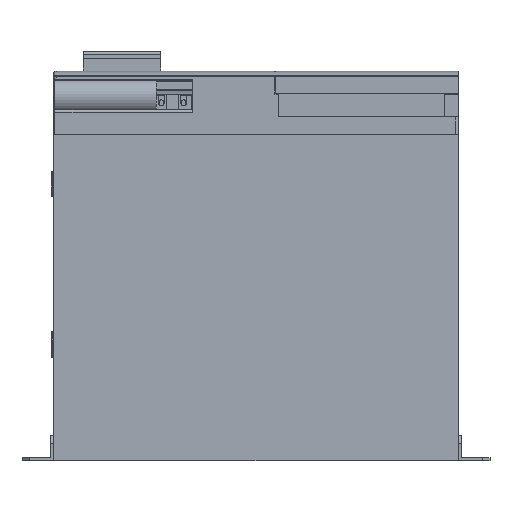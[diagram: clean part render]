
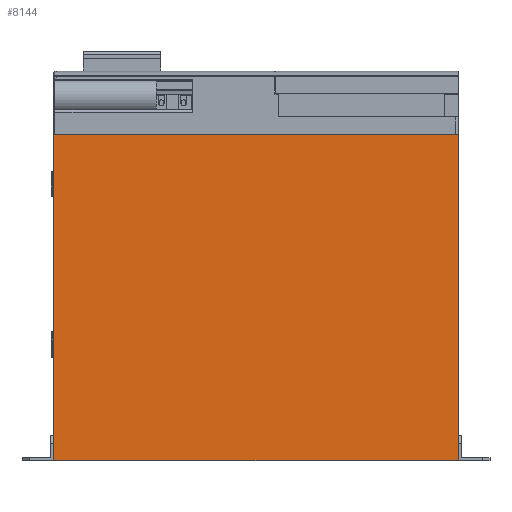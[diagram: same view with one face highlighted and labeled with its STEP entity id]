
A CAD part, left-side view. The second image highlights one B-rep face of the part: STEP entity #8144.
In plain terms, the highlighted planar face has unit normal (-1, 0, 0).
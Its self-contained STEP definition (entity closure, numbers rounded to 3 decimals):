
#8144=ADVANCED_FACE('',(#15345),#15344,.F.);
#15344=PLANE('',#59144);
#15345=FACE_OUTER_BOUND('',#59145,.T.);
#59141=CARTESIAN_POINT('',(-7.1,-169.5,-4.9));
#59142=DIRECTION('',(1.,0.,0.));
#59143=DIRECTION('',(0.,0.,-1.));
#59144=AXIS2_PLACEMENT_3D('',#59141,#59142,#59143);
#59145=EDGE_LOOP('',(#82665,#82666,#82667,#82668));
#82665=ORIENTED_EDGE('',*,*,#106315,.T.);
#82666=ORIENTED_EDGE('',*,*,#106318,.F.);
#82667=ORIENTED_EDGE('',*,*,#106316,.F.);
#82668=ORIENTED_EDGE('',*,*,#106296,.T.);
#106296=EDGE_CURVE('',#121422,#121415,#121423,.T.);
#106315=EDGE_CURVE('',#121415,#121539,#121546,.T.);
#106316=EDGE_CURVE('',#121422,#121552,#121553,.T.);
#106318=EDGE_CURVE('',#121552,#121539,#121565,.T.);
#121415=VERTEX_POINT('',#201932);
#121422=VERTEX_POINT('',#201936);
#121423=LINE('',#201937,#201938);
#121539=VERTEX_POINT('',#201999);
#121546=LINE('',#202003,#202004);
#121552=VERTEX_POINT('',#202006);
#121553=LINE('',#202007,#202008);
#121565=LINE('',#202013,#202014);
#201932=CARTESIAN_POINT('',(-7.1,0.5,-143.9));
#201936=CARTESIAN_POINT('',(-7.1,0.5,-14.9));
#201937=CARTESIAN_POINT('',(-7.1,0.5,-14.9));
#201938=VECTOR('',#201939,129.);
#201939=DIRECTION('',(0.,0.,-1.));
#201999=CARTESIAN_POINT('',(-7.1,-159.5,-143.9));
#202003=CARTESIAN_POINT('',(-7.1,0.5,-143.9));
#202004=VECTOR('',#202005,160.);
#202005=DIRECTION('',(0.,-1.,0.));
#202006=CARTESIAN_POINT('',(-7.1,-159.5,-14.9));
#202007=CARTESIAN_POINT('',(-7.1,0.5,-14.9));
#202008=VECTOR('',#202009,160.);
#202009=DIRECTION('',(0.,-1.,0.));
#202013=CARTESIAN_POINT('',(-7.1,-159.5,-14.9));
#202014=VECTOR('',#202015,129.);
#202015=DIRECTION('',(0.,0.,-1.));
